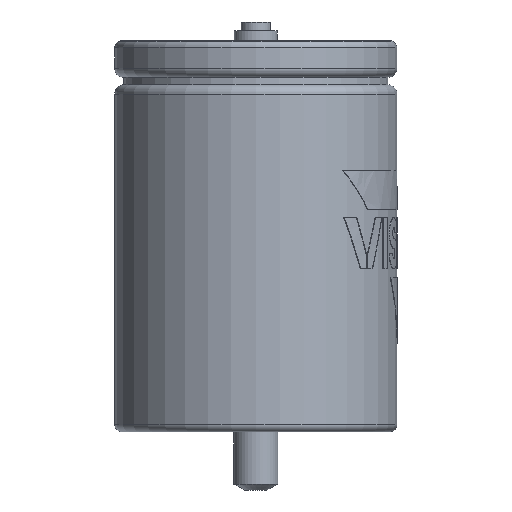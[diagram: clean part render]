
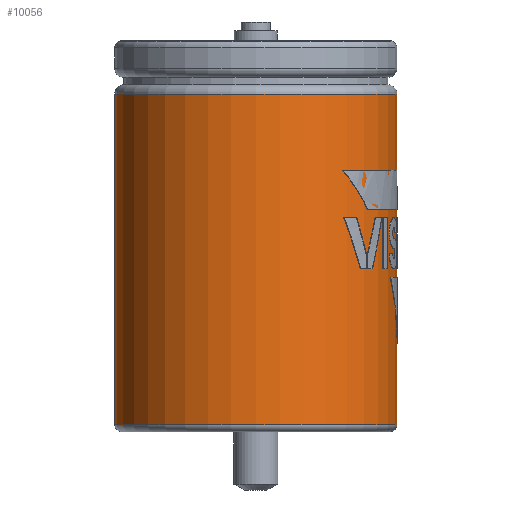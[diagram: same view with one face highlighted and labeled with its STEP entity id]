
A CAD part, left-side view. The second image highlights one B-rep face of the part: STEP entity #10056.
In plain terms, the highlighted cylindrical face has radius 38.2 mm (diameter 76.4 mm), a full revolution.
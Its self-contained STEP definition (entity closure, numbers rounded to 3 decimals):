
#9989 = TOROIDAL_SURFACE('',#9990,36.3,1.9);
#9990 = AXIS2_PLACEMENT_3D('',#9991,#9992,#9993);
#9991 = CARTESIAN_POINT('',(0.,0.,-102.));
#9992 = DIRECTION('',(0.,0.,1.));
#9993 = DIRECTION('',(1.,0.,0.));
#10006 = VERTEX_POINT('',#10007);
#10007 = CARTESIAN_POINT('',(38.2,0.,-102.));
#10029 = EDGE_CURVE('',#10006,#10006,#10030,.T.);
#10030 = SURFACE_CURVE('',#10031,(#10036,#10043),.PCURVE_S1.);
#10031 = CIRCLE('',#10032,38.2);
#10032 = AXIS2_PLACEMENT_3D('',#10033,#10034,#10035);
#10033 = CARTESIAN_POINT('',(0.,0.,-102.));
#10034 = DIRECTION('',(0.,-0.,1.));
#10035 = DIRECTION('',(1.,0.,0.));
#10036 = PCURVE('',#9989,#10037);
#10037 = DEFINITIONAL_REPRESENTATION('',(#10038),#10042);
#10038 = LINE('',#10039,#10040);
#10039 = CARTESIAN_POINT('',(0.,6.283));
#10040 = VECTOR('',#10041,1.);
#10041 = DIRECTION('',(1.,0.));
#10042 = ( GEOMETRIC_REPRESENTATION_CONTEXT(2) 
PARAMETRIC_REPRESENTATION_CONTEXT() REPRESENTATION_CONTEXT('2D SPACE',''
  ) );
#10043 = PCURVE('',#10044,#10049);
#10044 = CYLINDRICAL_SURFACE('',#10045,38.2);
#10045 = AXIS2_PLACEMENT_3D('',#10046,#10047,#10048);
#10046 = CARTESIAN_POINT('',(0.,0.,-102.));
#10047 = DIRECTION('',(0.,0.,1.));
#10048 = DIRECTION('',(1.,0.,0.));
#10049 = DEFINITIONAL_REPRESENTATION('',(#10050),#10054);
#10050 = LINE('',#10051,#10052);
#10051 = CARTESIAN_POINT('',(0.,0.));
#10052 = VECTOR('',#10053,1.);
#10053 = DIRECTION('',(1.,0.));
#10054 = ( GEOMETRIC_REPRESENTATION_CONTEXT(2) 
PARAMETRIC_REPRESENTATION_CONTEXT() REPRESENTATION_CONTEXT('2D SPACE',''
  ) );
#10056 = ADVANCED_FACE('',(#10057),#10044,.T.);
#10057 = FACE_BOUND('',#10058,.T.);
#10058 = EDGE_LOOP('',(#10059,#10060,#10083,#10110));
#10059 = ORIENTED_EDGE('',*,*,#10029,.T.);
#10060 = ORIENTED_EDGE('',*,*,#10061,.T.);
#10061 = EDGE_CURVE('',#10006,#10062,#10064,.T.);
#10062 = VERTEX_POINT('',#10063);
#10063 = CARTESIAN_POINT('',(38.2,0.,-12.5));
#10064 = SEAM_CURVE('',#10065,(#10069,#10076),.PCURVE_S1.);
#10065 = LINE('',#10066,#10067);
#10066 = CARTESIAN_POINT('',(38.2,0.,-102.));
#10067 = VECTOR('',#10068,1.);
#10068 = DIRECTION('',(0.,0.,1.));
#10069 = PCURVE('',#10044,#10070);
#10070 = DEFINITIONAL_REPRESENTATION('',(#10071),#10075);
#10071 = LINE('',#10072,#10073);
#10072 = CARTESIAN_POINT('',(0.,0.));
#10073 = VECTOR('',#10074,1.);
#10074 = DIRECTION('',(0.,1.));
#10075 = ( GEOMETRIC_REPRESENTATION_CONTEXT(2) 
PARAMETRIC_REPRESENTATION_CONTEXT() REPRESENTATION_CONTEXT('2D SPACE',''
  ) );
#10076 = PCURVE('',#10044,#10077);
#10077 = DEFINITIONAL_REPRESENTATION('',(#10078),#10082);
#10078 = LINE('',#10079,#10080);
#10079 = CARTESIAN_POINT('',(6.283,0.));
#10080 = VECTOR('',#10081,1.);
#10081 = DIRECTION('',(0.,1.));
#10082 = ( GEOMETRIC_REPRESENTATION_CONTEXT(2) 
PARAMETRIC_REPRESENTATION_CONTEXT() REPRESENTATION_CONTEXT('2D SPACE',''
  ) );
#10083 = ORIENTED_EDGE('',*,*,#10084,.F.);
#10084 = EDGE_CURVE('',#10062,#10062,#10085,.T.);
#10085 = SURFACE_CURVE('',#10086,(#10091,#10098),.PCURVE_S1.);
#10086 = CIRCLE('',#10087,38.2);
#10087 = AXIS2_PLACEMENT_3D('',#10088,#10089,#10090);
#10088 = CARTESIAN_POINT('',(0.,0.,-12.5));
#10089 = DIRECTION('',(0.,-0.,1.));
#10090 = DIRECTION('',(1.,0.,0.));
#10091 = PCURVE('',#10044,#10092);
#10092 = DEFINITIONAL_REPRESENTATION('',(#10093),#10097);
#10093 = LINE('',#10094,#10095);
#10094 = CARTESIAN_POINT('',(0.,89.5));
#10095 = VECTOR('',#10096,1.);
#10096 = DIRECTION('',(1.,0.));
#10097 = ( GEOMETRIC_REPRESENTATION_CONTEXT(2) 
PARAMETRIC_REPRESENTATION_CONTEXT() REPRESENTATION_CONTEXT('2D SPACE',''
  ) );
#10098 = PCURVE('',#10099,#10104);
#10099 = TOROIDAL_SURFACE('',#10100,35.7,2.5);
#10100 = AXIS2_PLACEMENT_3D('',#10101,#10102,#10103);
#10101 = CARTESIAN_POINT('',(0.,0.,-12.5));
#10102 = DIRECTION('',(0.,0.,1.));
#10103 = DIRECTION('',(1.,0.,0.));
#10104 = DEFINITIONAL_REPRESENTATION('',(#10105),#10109);
#10105 = LINE('',#10106,#10107);
#10106 = CARTESIAN_POINT('',(0.,0.));
#10107 = VECTOR('',#10108,1.);
#10108 = DIRECTION('',(1.,0.));
#10109 = ( GEOMETRIC_REPRESENTATION_CONTEXT(2) 
PARAMETRIC_REPRESENTATION_CONTEXT() REPRESENTATION_CONTEXT('2D SPACE',''
  ) );
#10110 = ORIENTED_EDGE('',*,*,#10061,.F.);
